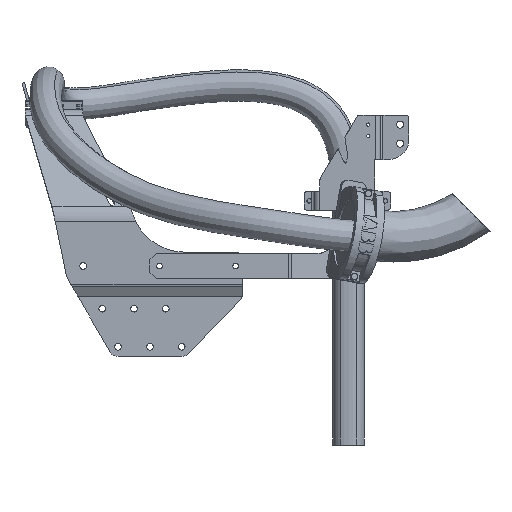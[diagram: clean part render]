
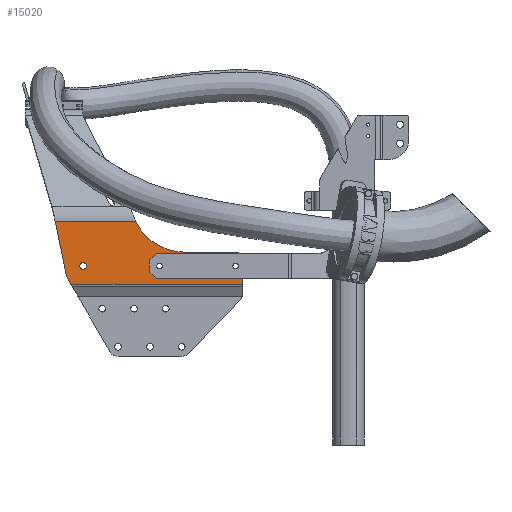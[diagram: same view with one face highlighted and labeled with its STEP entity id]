
A CAD part, front view. The second image highlights one B-rep face of the part: STEP entity #15020.
In plain terms, the highlighted planar face has unit normal (0, -1, 0).
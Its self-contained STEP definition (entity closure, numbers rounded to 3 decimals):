
#314 = DIRECTION ( 'NONE',  ( 0.203, 0., -0.979 ) ) ;
#1652 = ORIENTED_EDGE ( 'NONE', *, *, #31444, .F. ) ;
#2726 = VERTEX_POINT ( 'NONE', #10264 ) ;
#4473 = DIRECTION ( 'NONE',  ( 1., 0., 0. ) ) ;
#5064 = LINE ( 'NONE', #66976, #18091 ) ;
#5720 = DIRECTION ( 'NONE',  ( -1., 0., 0. ) ) ;
#6183 = VECTOR ( 'NONE', #13908, 1000. ) ;
#8317 = CARTESIAN_POINT ( 'NONE',  ( -303.5, -470., 646.9 ) ) ;
#8505 = ORIENTED_EDGE ( 'NONE', *, *, #24649, .F. ) ;
#9488 = CARTESIAN_POINT ( 'NONE',  ( -408.5, -470., 484.9 ) ) ;
#9692 = PLANE ( 'NONE',  #46714 ) ;
#9771 = VECTOR ( 'NONE', #28358, 1000. ) ;
#10264 = CARTESIAN_POINT ( 'NONE',  ( -403.25, -470., 626.9 ) ) ;
#10877 = VECTOR ( 'NONE', #314, 1000. ) ;
#11408 = VERTEX_POINT ( 'NONE', #34282 ) ;
#11496 = CARTESIAN_POINT ( 'NONE',  ( -162.5, -470., 646.9 ) ) ;
#11608 = ORIENTED_EDGE ( 'NONE', *, *, #34877, .F. ) ;
#11728 = EDGE_CURVE ( 'NONE', #2726, #60697, #58367, .T. ) ;
#12619 = DIRECTION ( 'NONE',  ( 0., -1., 0. ) ) ;
#13613 = ORIENTED_EDGE ( 'NONE', *, *, #36321, .T. ) ;
#13734 = LINE ( 'NONE', #8317, #33703 ) ;
#13908 = DIRECTION ( 'NONE',  ( 0.707, 0., 0.707 ) ) ;
#13981 = DIRECTION ( 'NONE',  ( 1., 0., 0. ) ) ;
#15020 = ADVANCED_FACE ( 'NONE', ( #30008, #50618 ), #9692, .T. ) ;
#15495 = EDGE_LOOP ( 'NONE', ( #8505, #54436, #56542, #27011, #1652, #13613, #62863, #20632, #30349, #23540, #16561, #11608, #28724, #21285 ) ) ;
#16283 = EDGE_CURVE ( 'NONE', #23004, #30281, #29798, .T. ) ;
#16561 = ORIENTED_EDGE ( 'NONE', *, *, #59986, .T. ) ;
#16938 = VERTEX_POINT ( 'NONE', #55770 ) ;
#17071 = EDGE_CURVE ( 'NONE', #32818, #23004, #40910, .T. ) ;
#17579 = VERTEX_POINT ( 'NONE', #32758 ) ;
#17741 = AXIS2_PLACEMENT_3D ( 'NONE', #35101, #29702, #55393 ) ;
#17811 = VERTEX_POINT ( 'NONE', #37474 ) ;
#18091 = VECTOR ( 'NONE', #5720, 1000. ) ;
#18673 = AXIS2_PLACEMENT_3D ( 'NONE', #32228, #38620, #48771 ) ;
#19160 = DIRECTION ( 'NONE',  ( -1., 0., 0. ) ) ;
#19941 = VECTOR ( 'NONE', #38509, 1000. ) ;
#19948 = DIRECTION ( 'NONE',  ( -1., 0., 0. ) ) ;
#20050 = CIRCLE ( 'NONE', #44891, 15. ) ;
#20069 = CARTESIAN_POINT ( 'NONE',  ( -249.093, -470., 648.9 ) ) ;
#20357 = CARTESIAN_POINT ( 'NONE',  ( -298.5, -470., 611.9 ) ) ;
#20632 = ORIENTED_EDGE ( 'NONE', *, *, #54577, .T. ) ;
#21285 = ORIENTED_EDGE ( 'NONE', *, *, #29751, .T. ) ;
#22087 = CARTESIAN_POINT ( 'NONE',  ( -434.855, -470., 612.331 ) ) ;
#22319 = EDGE_CURVE ( 'NONE', #60697, #2726, #53182, .T. ) ;
#22468 = CARTESIAN_POINT ( 'NONE',  ( -408.5, -470., 626.9 ) ) ;
#22985 = VECTOR ( 'NONE', #40987, 1000. ) ;
#23004 = VERTEX_POINT ( 'NONE', #31762 ) ;
#23540 = ORIENTED_EDGE ( 'NONE', *, *, #16283, .T. ) ;
#23767 = CARTESIAN_POINT ( 'NONE',  ( -318.5, -470., 621.9 ) ) ;
#24649 = EDGE_CURVE ( 'NONE', #31382, #48821, #59116, .T. ) ;
#26367 = VECTOR ( 'NONE', #60672, 1000. ) ;
#27011 = ORIENTED_EDGE ( 'NONE', *, *, #44500, .T. ) ;
#27276 = EDGE_CURVE ( 'NONE', #47449, #53470, #5064, .T. ) ;
#28358 = DIRECTION ( 'NONE',  ( 1., 0., 0. ) ) ;
#28724 = ORIENTED_EDGE ( 'NONE', *, *, #49290, .F. ) ;
#29292 = VECTOR ( 'NONE', #19948, 1000. ) ;
#29702 = DIRECTION ( 'NONE',  ( 0., -1., 0. ) ) ;
#29751 = EDGE_CURVE ( 'NONE', #16938, #48821, #66408, .T. ) ;
#29798 = LINE ( 'NONE', #9488, #10877 ) ;
#30008 = FACE_OUTER_BOUND ( 'NONE', #15495, .T. ) ;
#30281 = VERTEX_POINT ( 'NONE', #22087 ) ;
#30349 = ORIENTED_EDGE ( 'NONE', *, *, #17071, .T. ) ;
#30830 = LINE ( 'NONE', #20357, #22985 ) ;
#31382 = VERTEX_POINT ( 'NONE', #60397 ) ;
#31444 = EDGE_CURVE ( 'NONE', #41242, #17811, #13734, .T. ) ;
#31762 = CARTESIAN_POINT ( 'NONE',  ( -452.435, -470., 697.334 ) ) ;
#32228 = CARTESIAN_POINT ( 'NONE',  ( -249.093, -470., 733.9 ) ) ;
#32674 = AXIS2_PLACEMENT_3D ( 'NONE', #22468, #12619, #33283 ) ;
#32758 = CARTESIAN_POINT ( 'NONE',  ( -303.5, -470., 636.9 ) ) ;
#32818 = VERTEX_POINT ( 'NONE', #37967 ) ;
#33277 = EDGE_CURVE ( 'NONE', #31382, #11408, #30830, .T. ) ;
#33283 = DIRECTION ( 'NONE',  ( 1., 0., 0. ) ) ;
#33448 = CARTESIAN_POINT ( 'NONE',  ( 15., -470., 606.9 ) ) ;
#33703 = VECTOR ( 'NONE', #19160, 1000. ) ;
#34282 = CARTESIAN_POINT ( 'NONE',  ( -303.5, -470., 616.9 ) ) ;
#34877 = EDGE_CURVE ( 'NONE', #54693, #54681, #49516, .T. ) ;
#35101 = CARTESIAN_POINT ( 'NONE',  ( -168.5, -470., 638.9 ) ) ;
#35974 = CARTESIAN_POINT ( 'NONE',  ( -158.5, -470., 646.319 ) ) ;
#36043 = EDGE_CURVE ( 'NONE', #17579, #11408, #48335, .T. ) ;
#36321 = EDGE_CURVE ( 'NONE', #41242, #47449, #46915, .T. ) ;
#36629 = VECTOR ( 'NONE', #51517, 1000. ) ;
#37474 = CARTESIAN_POINT ( 'NONE',  ( -293.5, -470., 646.9 ) ) ;
#37955 = CARTESIAN_POINT ( 'NONE',  ( -433.156, -470., 607.869 ) ) ;
#37967 = CARTESIAN_POINT ( 'NONE',  ( -325.825, -470., 697.334 ) ) ;
#38106 = DIRECTION ( 'NONE',  ( 0., -1., 0. ) ) ;
#38128 = ORIENTED_EDGE ( 'NONE', *, *, #11728, .F. ) ;
#38509 = DIRECTION ( 'NONE',  ( 0., 0., -1. ) ) ;
#38620 = DIRECTION ( 'NONE',  ( 0., 1., 0. ) ) ;
#38931 = ORIENTED_EDGE ( 'NONE', *, *, #22319, .F. ) ;
#40372 = CARTESIAN_POINT ( 'NONE',  ( -420.166, -470., 615.369 ) ) ;
#40910 = LINE ( 'NONE', #45630, #29292 ) ;
#40987 = DIRECTION ( 'NONE',  ( -0.707, 0., 0.707 ) ) ;
#41242 = VERTEX_POINT ( 'NONE', #11496 ) ;
#41370 = CARTESIAN_POINT ( 'NONE',  ( -408.5, -470., 626.9 ) ) ;
#43899 = CARTESIAN_POINT ( 'NONE',  ( -158.5, -470., 606.9 ) ) ;
#44378 = LINE ( 'NONE', #23767, #6183 ) ;
#44500 = EDGE_CURVE ( 'NONE', #17579, #17811, #44378, .T. ) ;
#44891 = AXIS2_PLACEMENT_3D ( 'NONE', #40372, #38106, #13981 ) ;
#45219 = CARTESIAN_POINT ( 'NONE',  ( -249.093, -470., 598.317 ) ) ;
#45459 = CARTESIAN_POINT ( 'NONE',  ( -440.596, -470., 620.754 ) ) ;
#45630 = CARTESIAN_POINT ( 'NONE',  ( -249.093, -470., 697.334 ) ) ;
#46714 = AXIS2_PLACEMENT_3D ( 'NONE', #51293, #50271, #65842 ) ;
#46915 = CIRCLE ( 'NONE', #17741, 10. ) ;
#47449 = VERTEX_POINT ( 'NONE', #66100 ) ;
#48335 = LINE ( 'NONE', #58470, #19941 ) ;
#48771 = DIRECTION ( 'NONE',  ( 1., 0., 0. ) ) ;
#48821 = VERTEX_POINT ( 'NONE', #43899 ) ;
#49290 = EDGE_CURVE ( 'NONE', #16938, #54693, #60427, .T. ) ;
#49516 = LINE ( 'NONE', #45459, #26367 ) ;
#50271 = DIRECTION ( 'NONE',  ( 0., -1., 0. ) ) ;
#50447 = EDGE_LOOP ( 'NONE', ( #38128, #38931 ) ) ;
#50618 = FACE_BOUND ( 'NONE', #50447, .T. ) ;
#51293 = CARTESIAN_POINT ( 'NONE',  ( -249.093, -470., 731.319 ) ) ;
#51517 = DIRECTION ( 'NONE',  ( 0., 0., 1. ) ) ;
#52979 = AXIS2_PLACEMENT_3D ( 'NONE', #41370, #56568, #4473 ) ;
#53182 = CIRCLE ( 'NONE', #32674, 5.25 ) ;
#53470 = VERTEX_POINT ( 'NONE', #20069 ) ;
#53509 = CARTESIAN_POINT ( 'NONE',  ( -413.75, -470., 626.9 ) ) ;
#54436 = ORIENTED_EDGE ( 'NONE', *, *, #33277, .T. ) ;
#54577 = EDGE_CURVE ( 'NONE', #53470, #32818, #59705, .T. ) ;
#54681 = VERTEX_POINT ( 'NONE', #37955 ) ;
#54693 = VERTEX_POINT ( 'NONE', #58238 ) ;
#55393 = DIRECTION ( 'NONE',  ( 1., 0., 0. ) ) ;
#55770 = CARTESIAN_POINT ( 'NONE',  ( -158.5, -470., 598.317 ) ) ;
#56542 = ORIENTED_EDGE ( 'NONE', *, *, #36043, .F. ) ;
#56568 = DIRECTION ( 'NONE',  ( 0., -1., 0. ) ) ;
#58238 = CARTESIAN_POINT ( 'NONE',  ( -427.642, -470., 598.317 ) ) ;
#58367 = CIRCLE ( 'NONE', #52979, 5.25 ) ;
#58470 = CARTESIAN_POINT ( 'NONE',  ( -303.5, -470., 606.9 ) ) ;
#59116 = LINE ( 'NONE', #33448, #9771 ) ;
#59705 = CIRCLE ( 'NONE', #18673, 85. ) ;
#59986 = EDGE_CURVE ( 'NONE', #30281, #54681, #20050, .T. ) ;
#60397 = CARTESIAN_POINT ( 'NONE',  ( -293.5, -470., 606.9 ) ) ;
#60427 = LINE ( 'NONE', #45219, #63698 ) ;
#60672 = DIRECTION ( 'NONE',  ( -0.5, 0., 0.866 ) ) ;
#60697 = VERTEX_POINT ( 'NONE', #53509 ) ;
#62863 = ORIENTED_EDGE ( 'NONE', *, *, #27276, .T. ) ;
#63698 = VECTOR ( 'NONE', #65849, 1000. ) ;
#65842 = DIRECTION ( 'NONE',  ( 1., 0., 0. ) ) ;
#65849 = DIRECTION ( 'NONE',  ( -1., 0., 0. ) ) ;
#66100 = CARTESIAN_POINT ( 'NONE',  ( -168.5, -470., 648.9 ) ) ;
#66408 = LINE ( 'NONE', #35974, #36629 ) ;
#66976 = CARTESIAN_POINT ( 'NONE',  ( -249.093, -470., 648.9 ) ) ;
